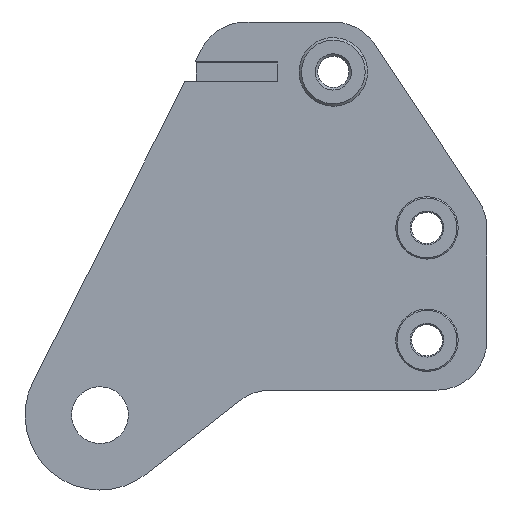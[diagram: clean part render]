
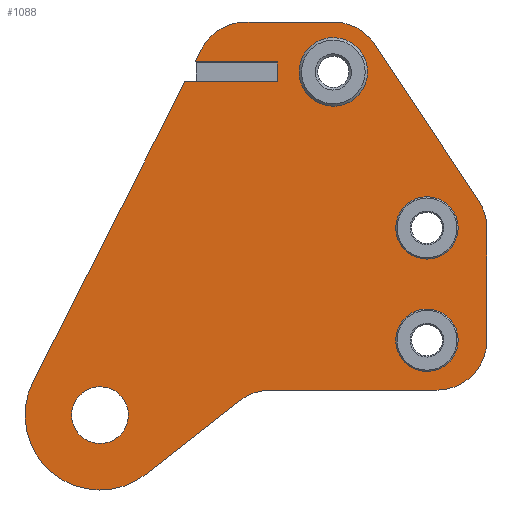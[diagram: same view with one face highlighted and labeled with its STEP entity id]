
A CAD part, front view. The second image highlights one B-rep face of the part: STEP entity #1088.
In plain terms, the highlighted planar face has unit normal (0, -1, 0).
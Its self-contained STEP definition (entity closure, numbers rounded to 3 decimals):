
#855=CARTESIAN_POINT('Axis2P3D Location',(187.,-135.,6.367)) ;
#859=CARTESIAN_POINT('Vertex',(206.965,-135.,17.274)) ;
#861=CARTESIAN_POINT('Vertex',(167.035,-135.,-4.54)) ;
#890=CARTESIAN_POINT('Axis2P3D Location',(0.,-135.,0.)) ;
#895=CARTESIAN_POINT('Line Origine',(203.259,-135.,-248.633)) ;
#899=CARTESIAN_POINT('Vertex',(270.,-135.,-248.633)) ;
#901=CARTESIAN_POINT('Vertex',(136.517,-135.,-248.633)) ;
#904=CARTESIAN_POINT('Axis2P3D Location',(270.,-135.,-208.633)) ;
#908=CARTESIAN_POINT('Vertex',(310.,-135.,-208.633)) ;
#911=CARTESIAN_POINT('Line Origine',(310.,-135.,-163.633)) ;
#915=CARTESIAN_POINT('Vertex',(310.,-135.,-118.633)) ;
#918=CARTESIAN_POINT('Axis2P3D Location',(270.,-135.,-118.633)) ;
#922=CARTESIAN_POINT('Vertex',(303.323,-135.,-96.506)) ;
#925=CARTESIAN_POINT('Line Origine',(261.823,-135.,-34.006)) ;
#929=CARTESIAN_POINT('Vertex',(220.323,-135.,28.494)) ;
#932=CARTESIAN_POINT('Axis2P3D Location',(187.,-135.,6.367)) ;
#936=CARTESIAN_POINT('Vertex',(187.,-135.,46.367)) ;
#939=CARTESIAN_POINT('Line Origine',(152.,-135.,46.367)) ;
#943=CARTESIAN_POINT('Vertex',(117.,-135.,46.367)) ;
#946=CARTESIAN_POINT('Axis2P3D Location',(117.,-135.,6.367)) ;
#950=CARTESIAN_POINT('Vertex',(81.323,-135.,24.455)) ;
#953=CARTESIAN_POINT('Line Origine',(78.766,-135.,19.411)) ;
#957=CARTESIAN_POINT('Vertex',(76.209,-135.,14.367)) ;
#960=CARTESIAN_POINT('Line Origine',(109.104,-135.,14.367)) ;
#964=CARTESIAN_POINT('Vertex',(142.,-135.,14.367)) ;
#967=CARTESIAN_POINT('Line Origine',(142.,-135.,6.367)) ;
#971=CARTESIAN_POINT('Vertex',(142.,-135.,-1.633)) ;
#974=CARTESIAN_POINT('Line Origine',(105.048,-135.,-1.633)) ;
#978=CARTESIAN_POINT('Vertex',(68.097,-135.,-1.633)) ;
#981=CARTESIAN_POINT('Line Origine',(7.291,-135.,-121.567)) ;
#985=CARTESIAN_POINT('Vertex',(-53.515,-135.,-241.501)) ;
#988=CARTESIAN_POINT('Axis2P3D Location',(0.,-135.,-268.633)) ;
#992=CARTESIAN_POINT('Vertex',(37.035,-135.,-315.839)) ;
#995=CARTESIAN_POINT('Line Origine',(74.431,-135.,-286.5)) ;
#999=CARTESIAN_POINT('Vertex',(111.827,-135.,-257.162)) ;
#1002=CARTESIAN_POINT('Axis2P3D Location',(136.517,-135.,-288.633)) ;
#1025=CARTESIAN_POINT('Axis2P3D Location',(187.,-135.,6.367)) ;
#1034=CARTESIAN_POINT('Axis2P3D Location',(262.,-135.,-208.633)) ;
#1038=CARTESIAN_POINT('Vertex',(242.035,-135.,-219.54)) ;
#1040=CARTESIAN_POINT('Vertex',(281.965,-135.,-197.726)) ;
#1043=CARTESIAN_POINT('Axis2P3D Location',(262.,-135.,-208.633)) ;
#1052=CARTESIAN_POINT('Axis2P3D Location',(262.,-135.,-118.633)) ;
#1056=CARTESIAN_POINT('Vertex',(281.965,-135.,-107.726)) ;
#1058=CARTESIAN_POINT('Vertex',(242.035,-135.,-129.54)) ;
#1061=CARTESIAN_POINT('Axis2P3D Location',(262.,-135.,-118.633)) ;
#1070=CARTESIAN_POINT('Axis2P3D Location',(0.,-135.,-268.633)) ;
#1074=CARTESIAN_POINT('Vertex',(19.965,-135.,-257.726)) ;
#1076=CARTESIAN_POINT('Vertex',(-19.965,-135.,-279.54)) ;
#1079=CARTESIAN_POINT('Axis2P3D Location',(0.,-135.,-268.633)) ;
#856=DIRECTION('Axis2P3D Direction',(0.,-1.,-0.)) ;
#891=DIRECTION('Axis2P3D Direction',(0.,1.,-0.)) ;
#892=DIRECTION('Axis2P3D XDirection',(-1.,0.,0.)) ;
#896=DIRECTION('Vector Direction',(1.,0.,0.)) ;
#905=DIRECTION('Axis2P3D Direction',(0.,1.,-0.)) ;
#912=DIRECTION('Vector Direction',(0.,0.,1.)) ;
#919=DIRECTION('Axis2P3D Direction',(0.,1.,-0.)) ;
#926=DIRECTION('Vector Direction',(0.553,0.,-0.833)) ;
#933=DIRECTION('Axis2P3D Direction',(0.,1.,-0.)) ;
#940=DIRECTION('Vector Direction',(-1.,0.,0.)) ;
#947=DIRECTION('Axis2P3D Direction',(0.,1.,-0.)) ;
#954=DIRECTION('Vector Direction',(0.452,0.,0.892)) ;
#961=DIRECTION('Vector Direction',(1.,0.,0.)) ;
#968=DIRECTION('Vector Direction',(0.,0.,-1.)) ;
#975=DIRECTION('Vector Direction',(-1.,0.,0.)) ;
#982=DIRECTION('Vector Direction',(0.452,0.,0.892)) ;
#989=DIRECTION('Axis2P3D Direction',(0.,1.,-0.)) ;
#996=DIRECTION('Vector Direction',(-0.787,0.,-0.617)) ;
#1003=DIRECTION('Axis2P3D Direction',(0.,1.,-0.)) ;
#1026=DIRECTION('Axis2P3D Direction',(0.,1.,-0.)) ;
#1035=DIRECTION('Axis2P3D Direction',(0.,1.,-0.)) ;
#1044=DIRECTION('Axis2P3D Direction',(0.,1.,-0.)) ;
#1053=DIRECTION('Axis2P3D Direction',(0.,1.,-0.)) ;
#1062=DIRECTION('Axis2P3D Direction',(0.,1.,-0.)) ;
#1071=DIRECTION('Axis2P3D Direction',(0.,1.,-0.)) ;
#1080=DIRECTION('Axis2P3D Direction',(0.,1.,-0.)) ;
#857=AXIS2_PLACEMENT_3D('Circle Axis2P3D',#855,#856,$) ;
#893=AXIS2_PLACEMENT_3D('Plane Axis2P3D',#890,#891,#892) ;
#906=AXIS2_PLACEMENT_3D('Circle Axis2P3D',#904,#905,$) ;
#920=AXIS2_PLACEMENT_3D('Circle Axis2P3D',#918,#919,$) ;
#934=AXIS2_PLACEMENT_3D('Circle Axis2P3D',#932,#933,$) ;
#948=AXIS2_PLACEMENT_3D('Circle Axis2P3D',#946,#947,$) ;
#990=AXIS2_PLACEMENT_3D('Circle Axis2P3D',#988,#989,$) ;
#1004=AXIS2_PLACEMENT_3D('Circle Axis2P3D',#1002,#1003,$) ;
#1027=AXIS2_PLACEMENT_3D('Circle Axis2P3D',#1025,#1026,$) ;
#1036=AXIS2_PLACEMENT_3D('Circle Axis2P3D',#1034,#1035,$) ;
#1045=AXIS2_PLACEMENT_3D('Circle Axis2P3D',#1043,#1044,$) ;
#1054=AXIS2_PLACEMENT_3D('Circle Axis2P3D',#1052,#1053,$) ;
#1063=AXIS2_PLACEMENT_3D('Circle Axis2P3D',#1061,#1062,$) ;
#1072=AXIS2_PLACEMENT_3D('Circle Axis2P3D',#1070,#1071,$) ;
#1081=AXIS2_PLACEMENT_3D('Circle Axis2P3D',#1079,#1080,$) ;
#1008=ORIENTED_EDGE('',*,*,#903,.F.) ;
#1009=ORIENTED_EDGE('',*,*,#910,.F.) ;
#1010=ORIENTED_EDGE('',*,*,#917,.F.) ;
#1011=ORIENTED_EDGE('',*,*,#924,.F.) ;
#1012=ORIENTED_EDGE('',*,*,#931,.F.) ;
#1013=ORIENTED_EDGE('',*,*,#938,.F.) ;
#1014=ORIENTED_EDGE('',*,*,#945,.F.) ;
#1015=ORIENTED_EDGE('',*,*,#952,.F.) ;
#1016=ORIENTED_EDGE('',*,*,#959,.F.) ;
#1017=ORIENTED_EDGE('',*,*,#966,.F.) ;
#1018=ORIENTED_EDGE('',*,*,#973,.F.) ;
#1019=ORIENTED_EDGE('',*,*,#980,.F.) ;
#1020=ORIENTED_EDGE('',*,*,#987,.F.) ;
#1021=ORIENTED_EDGE('',*,*,#994,.F.) ;
#1022=ORIENTED_EDGE('',*,*,#1001,.F.) ;
#1023=ORIENTED_EDGE('',*,*,#1006,.F.) ;
#1031=ORIENTED_EDGE('',*,*,#863,.T.) ;
#1032=ORIENTED_EDGE('',*,*,#1029,.T.) ;
#1049=ORIENTED_EDGE('',*,*,#1042,.T.) ;
#1050=ORIENTED_EDGE('',*,*,#1047,.T.) ;
#1067=ORIENTED_EDGE('',*,*,#1060,.T.) ;
#1068=ORIENTED_EDGE('',*,*,#1065,.T.) ;
#1085=ORIENTED_EDGE('',*,*,#1078,.T.) ;
#1086=ORIENTED_EDGE('',*,*,#1083,.T.) ;
#1033=FACE_BOUND('',#1030,.T.) ;
#1051=FACE_BOUND('',#1048,.T.) ;
#1069=FACE_BOUND('',#1066,.T.) ;
#1087=FACE_BOUND('',#1084,.T.) ;
#897=VECTOR('Line Direction',#896,1.) ;
#913=VECTOR('Line Direction',#912,1.) ;
#927=VECTOR('Line Direction',#926,1.) ;
#941=VECTOR('Line Direction',#940,1.) ;
#955=VECTOR('Line Direction',#954,1.) ;
#962=VECTOR('Line Direction',#961,1.) ;
#969=VECTOR('Line Direction',#968,1.) ;
#976=VECTOR('Line Direction',#975,1.) ;
#983=VECTOR('Line Direction',#982,1.) ;
#997=VECTOR('Line Direction',#996,1.) ;
#1088=ADVANCED_FACE('Corps principal',(#1024,#1033,#1051,#1069,#1087),#894,.F.) ;
#858=CIRCLE('generated circle',#857,22.75) ;
#907=CIRCLE('generated circle',#906,40.) ;
#921=CIRCLE('generated circle',#920,40.) ;
#935=CIRCLE('generated circle',#934,40.) ;
#949=CIRCLE('generated circle',#948,40.) ;
#991=CIRCLE('generated circle',#990,60.) ;
#1005=CIRCLE('generated circle',#1004,40.) ;
#1028=CIRCLE('generated circle',#1027,22.75) ;
#1037=CIRCLE('generated circle',#1036,22.75) ;
#1046=CIRCLE('generated circle',#1045,22.75) ;
#1055=CIRCLE('generated circle',#1054,22.75) ;
#1064=CIRCLE('generated circle',#1063,22.75) ;
#1073=CIRCLE('generated circle',#1072,22.75) ;
#1082=CIRCLE('generated circle',#1081,22.75) ;
#863=EDGE_CURVE('',#860,#862,#858,.F.) ;
#903=EDGE_CURVE('',#900,#902,#898,.F.) ;
#910=EDGE_CURVE('',#909,#900,#907,.T.) ;
#917=EDGE_CURVE('',#916,#909,#914,.F.) ;
#924=EDGE_CURVE('',#923,#916,#921,.T.) ;
#931=EDGE_CURVE('',#930,#923,#928,.T.) ;
#938=EDGE_CURVE('',#937,#930,#935,.T.) ;
#945=EDGE_CURVE('',#944,#937,#942,.F.) ;
#952=EDGE_CURVE('',#951,#944,#949,.T.) ;
#959=EDGE_CURVE('',#958,#951,#956,.T.) ;
#966=EDGE_CURVE('',#965,#958,#963,.F.) ;
#973=EDGE_CURVE('',#972,#965,#970,.F.) ;
#980=EDGE_CURVE('',#979,#972,#977,.F.) ;
#987=EDGE_CURVE('',#986,#979,#984,.T.) ;
#994=EDGE_CURVE('',#993,#986,#991,.T.) ;
#1001=EDGE_CURVE('',#1000,#993,#998,.T.) ;
#1006=EDGE_CURVE('',#902,#1000,#1005,.F.) ;
#1029=EDGE_CURVE('',#862,#860,#1028,.T.) ;
#1042=EDGE_CURVE('',#1039,#1041,#1037,.T.) ;
#1047=EDGE_CURVE('',#1041,#1039,#1046,.T.) ;
#1060=EDGE_CURVE('',#1057,#1059,#1055,.T.) ;
#1065=EDGE_CURVE('',#1059,#1057,#1064,.T.) ;
#1078=EDGE_CURVE('',#1075,#1077,#1073,.T.) ;
#1083=EDGE_CURVE('',#1077,#1075,#1082,.T.) ;
#1007=EDGE_LOOP('',(#1008,#1009,#1010,#1011,#1012,#1013,#1014,#1015,#1016,#1017,#1018,#1019,#1020,#1021,#1022,#1023)) ;
#1030=EDGE_LOOP('',(#1031,#1032)) ;
#1048=EDGE_LOOP('',(#1049,#1050)) ;
#1066=EDGE_LOOP('',(#1067,#1068)) ;
#1084=EDGE_LOOP('',(#1085,#1086)) ;
#1024=FACE_OUTER_BOUND('',#1007,.T.) ;
#898=LINE('Line',#895,#897) ;
#914=LINE('Line',#911,#913) ;
#928=LINE('Line',#925,#927) ;
#942=LINE('Line',#939,#941) ;
#956=LINE('Line',#953,#955) ;
#963=LINE('Line',#960,#962) ;
#970=LINE('Line',#967,#969) ;
#977=LINE('Line',#974,#976) ;
#984=LINE('Line',#981,#983) ;
#998=LINE('Line',#995,#997) ;
#894=PLANE('Plane',#893) ;
#860=VERTEX_POINT('',#859) ;
#862=VERTEX_POINT('',#861) ;
#900=VERTEX_POINT('',#899) ;
#902=VERTEX_POINT('',#901) ;
#909=VERTEX_POINT('',#908) ;
#916=VERTEX_POINT('',#915) ;
#923=VERTEX_POINT('',#922) ;
#930=VERTEX_POINT('',#929) ;
#937=VERTEX_POINT('',#936) ;
#944=VERTEX_POINT('',#943) ;
#951=VERTEX_POINT('',#950) ;
#958=VERTEX_POINT('',#957) ;
#965=VERTEX_POINT('',#964) ;
#972=VERTEX_POINT('',#971) ;
#979=VERTEX_POINT('',#978) ;
#986=VERTEX_POINT('',#985) ;
#993=VERTEX_POINT('',#992) ;
#1000=VERTEX_POINT('',#999) ;
#1039=VERTEX_POINT('',#1038) ;
#1041=VERTEX_POINT('',#1040) ;
#1057=VERTEX_POINT('',#1056) ;
#1059=VERTEX_POINT('',#1058) ;
#1075=VERTEX_POINT('',#1074) ;
#1077=VERTEX_POINT('',#1076) ;
